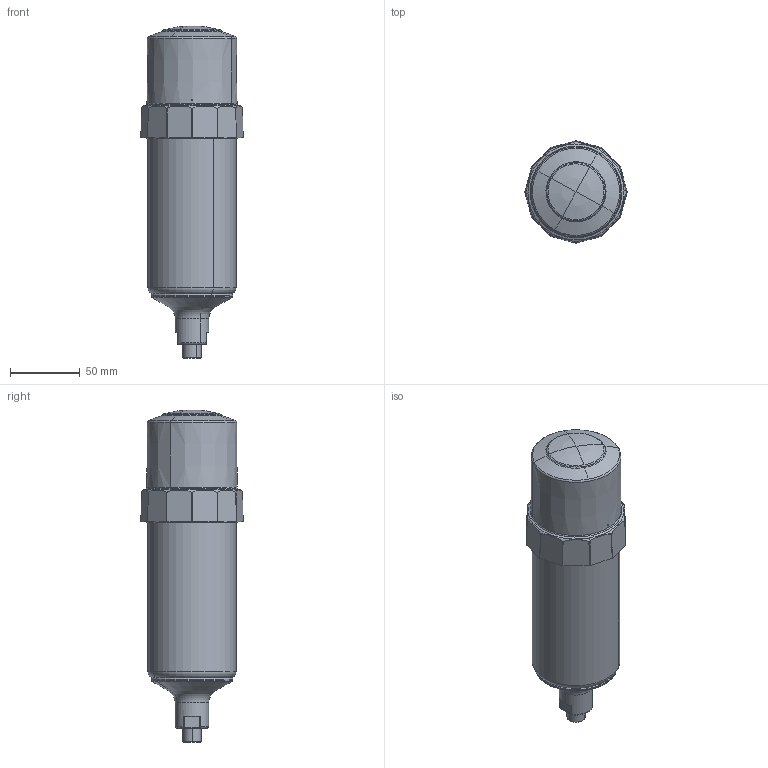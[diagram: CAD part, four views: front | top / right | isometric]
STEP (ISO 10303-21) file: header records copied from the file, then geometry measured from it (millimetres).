
FILE_DESCRIPTION(('CATIA V5 STEP Exchange','CAx-IF Rec.Pracs.--- Model Styling and Organization---1.2---2011-12-15'),'2;1');
FILE_NAME('C:\Container_250ml_outside.stp','2015-02-26T09:23:01+00:00',('none'),('none'),'Version 5-6 Release 2012','CATIA V5 STEP AP214','none');
FILE_SCHEMA(('AUTOMOTIVE_DESIGN { 1 0 10303 214 1 1 1 1 }'));
Length unit declared in the file: millimetre
Products named in the file (8): Assembly; Montagem; Cylinder_250ml; Adaptador LAPN 1_4; Flange de suporte; 124_Seal; Sistema mecanico; Cap
Assembly tree (7 placements, depth 3):
  Assembly
    Montagem
      Cylinder_250ml
      Adaptador LAPN 1_4
      Flange de suporte
      124_Seal
    Sistema mecanico
      Cap
Bounding box: 73.26 x 73.26 x 237.62 mm (x, y, z)
Volume: 84171.8 mm3; surface area: 110585.6 mm2
Topology: 4 solids, 5 shells, 2283 faces, 5448 edges, 3148 vertices
Faces by surface type: plane 1050, bspline 598, cylinder 461, torus 74, cone 68, sphere 24, revolution 8
Entity records: 164417 total; most frequent: CARTESIAN_POINT 104458, ORIENTED_EDGE 10808, DIRECTION 6394, EDGE_CURVE 5422, VERTEX_POINT 3148, VECTOR 2779, LINE 2779, EDGE_LOOP 2304
